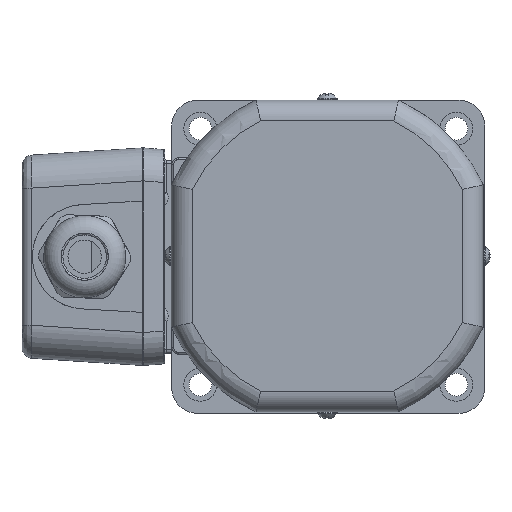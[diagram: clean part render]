
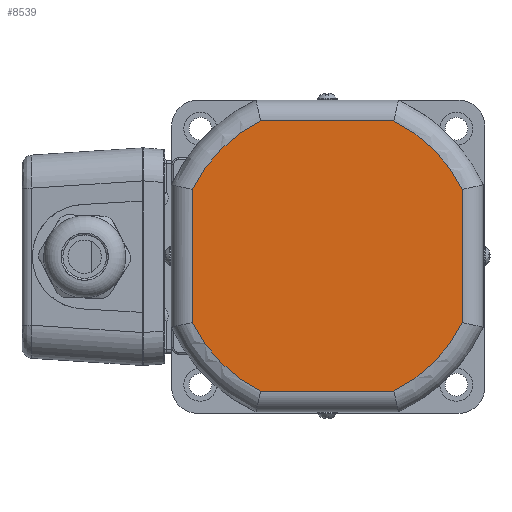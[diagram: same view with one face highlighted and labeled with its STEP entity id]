
A CAD part, left-side view. The second image highlights one B-rep face of the part: STEP entity #8539.
In plain terms, the highlighted planar face has unit normal (-1, 0, 0).
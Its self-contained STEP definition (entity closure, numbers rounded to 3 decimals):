
#8166=CARTESIAN_POINT('',(-17.8,-19.108,-38.8));
#8167=VERTEX_POINT('',#8166);
#8194=CARTESIAN_POINT('',(-17.8,-38.8,-19.108));
#8195=VERTEX_POINT('',#8194);
#8213=CARTESIAN_POINT('',(-17.8,0.,0.));
#8214=DIRECTION('',(1.0,0.0,0.0));
#8215=DIRECTION('',(0.0,-0.707,-0.707));
#8216=AXIS2_PLACEMENT_3D('',#8213,#8214,#8215);
#8217=CIRCLE('',#8216,43.25);
#8218=EDGE_CURVE('',#8195,#8167,#8217,.T.);
#8230=CARTESIAN_POINT('',(-17.8,-38.8,19.108));
#8231=VERTEX_POINT('',#8230);
#8249=CARTESIAN_POINT('',(-17.8,-38.8,19.108));
#8250=DIRECTION('',(0.0,0.0,-1.0));
#8251=VECTOR('',#8250,38.216);
#8252=LINE('',#8249,#8251);
#8253=EDGE_CURVE('',#8231,#8195,#8252,.T.);
#8272=CARTESIAN_POINT('',(-17.8,19.108,-38.8));
#8273=VERTEX_POINT('',#8272);
#8298=CARTESIAN_POINT('',(-17.8,-19.108,-38.8));
#8299=DIRECTION('',(0.0,1.0,0.0));
#8300=VECTOR('',#8299,38.216);
#8301=LINE('',#8298,#8300);
#8302=EDGE_CURVE('',#8167,#8273,#8301,.T.);
#8312=CARTESIAN_POINT('',(-17.8,-19.108,38.8));
#8313=VERTEX_POINT('',#8312);
#8331=CARTESIAN_POINT('',(-17.8,0.,0.));
#8332=DIRECTION('',(1.0,0.0,0.0));
#8333=DIRECTION('',(0.0,-0.707,0.707));
#8334=AXIS2_PLACEMENT_3D('',#8331,#8332,#8333);
#8335=CIRCLE('',#8334,43.25);
#8336=EDGE_CURVE('',#8313,#8231,#8335,.T.);
#8354=CARTESIAN_POINT('',(-17.8,38.8,-19.108));
#8355=VERTEX_POINT('',#8354);
#8381=CARTESIAN_POINT('',(-17.8,0.,0.));
#8382=DIRECTION('',(1.,0.0,0.0));
#8383=DIRECTION('',(0.0,0.707,-0.707));
#8384=AXIS2_PLACEMENT_3D('',#8381,#8382,#8383);
#8385=CIRCLE('',#8384,43.25);
#8386=EDGE_CURVE('',#8273,#8355,#8385,.T.);
#8396=CARTESIAN_POINT('',(-17.8,19.108,38.8));
#8397=VERTEX_POINT('',#8396);
#8415=CARTESIAN_POINT('',(-17.8,19.108,38.8));
#8416=DIRECTION('',(0.0,-1.0,0.0));
#8417=VECTOR('',#8416,38.216);
#8418=LINE('',#8415,#8417);
#8419=EDGE_CURVE('',#8397,#8313,#8418,.T.);
#8431=CARTESIAN_POINT('',(-17.8,38.8,19.108));
#8432=VERTEX_POINT('',#8431);
#8452=CARTESIAN_POINT('',(-17.8,38.8,-19.108));
#8453=DIRECTION('',(0.0,0.0,1.0));
#8454=VECTOR('',#8453,38.216);
#8455=LINE('',#8452,#8454);
#8456=EDGE_CURVE('',#8355,#8432,#8455,.T.);
#8467=CARTESIAN_POINT('',(-17.8,0.,0.));
#8468=DIRECTION('',(1.0,0.0,0.0));
#8469=DIRECTION('',(0.0,0.707,0.707));
#8470=AXIS2_PLACEMENT_3D('',#8467,#8468,#8469);
#8471=CIRCLE('',#8470,43.25);
#8472=EDGE_CURVE('',#8432,#8397,#8471,.T.);
#8524=CARTESIAN_POINT('',(-17.8,0.,0.));
#8525=DIRECTION('',(1.0,0.0,0.0));
#8526=DIRECTION('',(0.0,0.0,-1.0));
#8527=AXIS2_PLACEMENT_3D('',#8524,#8525,#8526);
#8528=PLANE('',#8527);
#8529=ORIENTED_EDGE('',*,*,#8456,.F.);
#8530=ORIENTED_EDGE('',*,*,#8386,.F.);
#8531=ORIENTED_EDGE('',*,*,#8302,.F.);
#8532=ORIENTED_EDGE('',*,*,#8218,.F.);
#8533=ORIENTED_EDGE('',*,*,#8253,.F.);
#8534=ORIENTED_EDGE('',*,*,#8336,.F.);
#8535=ORIENTED_EDGE('',*,*,#8419,.F.);
#8536=ORIENTED_EDGE('',*,*,#8472,.F.);
#8537=EDGE_LOOP('',(#8529,#8530,#8531,#8532,#8533,#8534,#8535,#8536));
#8538=FACE_OUTER_BOUND('',#8537,.T.);
#8539=ADVANCED_FACE('',(#8538),#8528,.F.);
